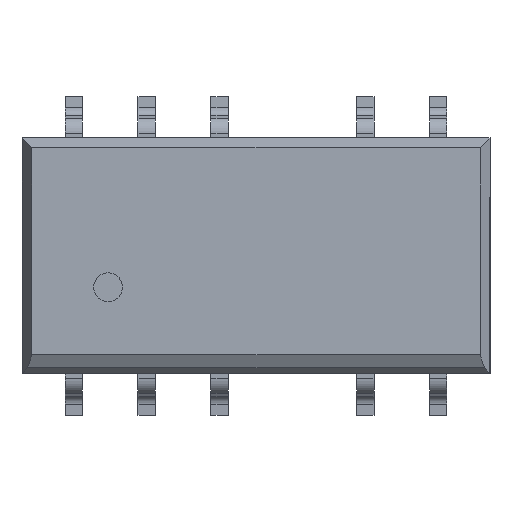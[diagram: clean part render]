
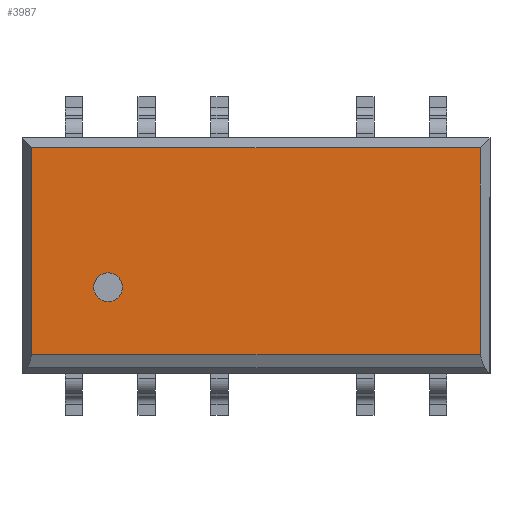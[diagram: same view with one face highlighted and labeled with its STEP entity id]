
A CAD part, top view. The second image highlights one B-rep face of the part: STEP entity #3987.
In plain terms, the highlighted planar face has unit normal (0, 0, 1) as drawn and (0, 0, -1) by its records, which use the part's own axes.
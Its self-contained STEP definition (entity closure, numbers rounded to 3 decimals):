
#50=FACE_BOUND('',#618,.T.);
#137=CIRCLE('',#4289,0.5);
#379=FACE_OUTER_BOUND('',#617,.T.);
#617=EDGE_LOOP('',(#3539,#3540,#3541,#3542));
#618=EDGE_LOOP('',(#3543));
#1066=LINE('',#6436,#1537);
#1070=LINE('',#6445,#1541);
#1076=LINE('',#6457,#1547);
#1079=LINE('',#6462,#1550);
#1537=VECTOR('',#5293,15.607);
#1541=VECTOR('',#5301,7.207);
#1547=VECTOR('',#5311,15.607);
#1550=VECTOR('',#5316,7.207);
#1919=VERTEX_POINT('',#6429);
#1922=VERTEX_POINT('',#6434);
#1925=VERTEX_POINT('',#6444);
#1929=VERTEX_POINT('',#6456);
#1931=VERTEX_POINT('',#6463);
#2460=EDGE_CURVE('',#1922,#1919,#1066,.T.);
#2464=EDGE_CURVE('',#1919,#1925,#1070,.T.);
#2470=EDGE_CURVE('',#1925,#1929,#1076,.T.);
#2473=EDGE_CURVE('',#1929,#1922,#1079,.T.);
#2474=EDGE_CURVE('',#1931,#1931,#137,.T.);
#3539=ORIENTED_EDGE('',*,*,#2460,.F.);
#3540=ORIENTED_EDGE('',*,*,#2473,.F.);
#3541=ORIENTED_EDGE('',*,*,#2470,.F.);
#3542=ORIENTED_EDGE('',*,*,#2464,.F.);
#3543=ORIENTED_EDGE('',*,*,#2474,.T.);
#3773=PLANE('',#4288);
#3987=ADVANCED_FACE('',(#379,#50),#3773,.F.);
#4288=AXIS2_PLACEMENT_3D('',#6461,#5314,#5315);
#4289=AXIS2_PLACEMENT_3D('',#6464,#5317,#5318);
#5293=DIRECTION('',(1.,0.,0.));
#5301=DIRECTION('',(0.,1.,0.));
#5311=DIRECTION('',(-1.,0.,0.));
#5314=DIRECTION('center_axis',(0.,0.,1.));
#5315=DIRECTION('ref_axis',(1.,0.,0.));
#5316=DIRECTION('',(0.,-1.,0.));
#5317=DIRECTION('center_axis',(0.,0.,1.));
#5318=DIRECTION('ref_axis',(-1.,0.,0.));
#6429=CARTESIAN_POINT('',(7.804,-3.454,0.));
#6434=CARTESIAN_POINT('',(-7.804,-3.454,0.));
#6436=CARTESIAN_POINT('',(2.038,-3.454,0.));
#6444=CARTESIAN_POINT('',(7.804,3.754,0.));
#6445=CARTESIAN_POINT('',(7.804,2.05,0.));
#6456=CARTESIAN_POINT('',(-7.804,3.754,0.));
#6457=CARTESIAN_POINT('',(-4.075,3.754,0.));
#6461=CARTESIAN_POINT('Origin',(0.,0.,0.));
#6462=CARTESIAN_POINT('',(-7.804,-2.05,0.));
#6463=CARTESIAN_POINT('',(4.65,-1.1,0.));
#6464=CARTESIAN_POINT('Origin',(5.15,-1.1,0.));
